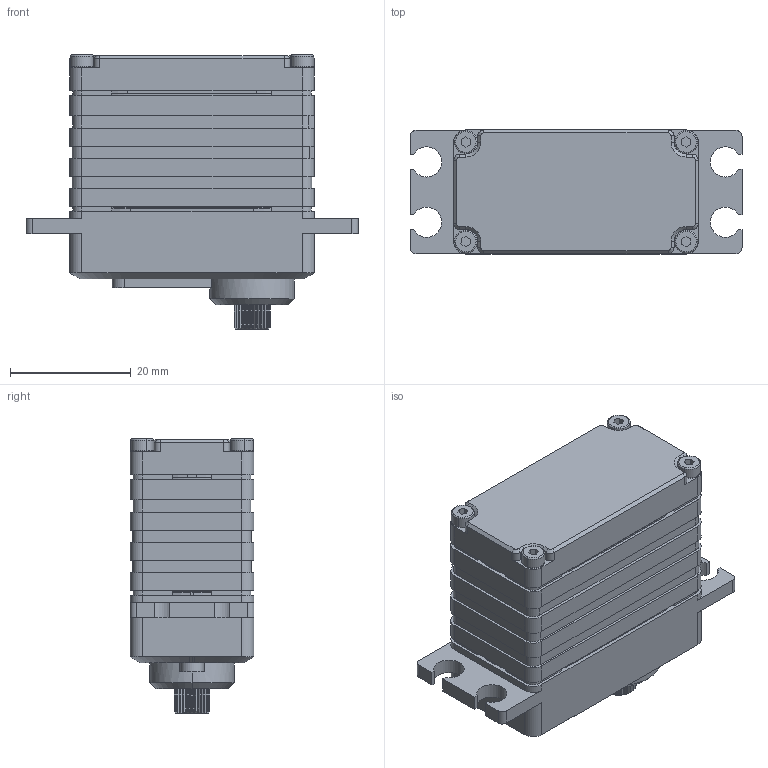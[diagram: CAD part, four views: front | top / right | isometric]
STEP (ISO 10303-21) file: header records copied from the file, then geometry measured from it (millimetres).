
FILE_DESCRIPTION (( 'STEP AP214' ), '1' );
FILE_NAME ('CM5018W_DM_20230718.STEP', '2023-11-01T08:25:40', ( '' ), ( '' ), 'SwSTEP 2.0', 'SolidWorks 2016', '' );
FILE_SCHEMA (( 'AUTOMOTIVE_DESIGN' ));
Length unit declared in the file: millimetre
Products named in the file (1): CM5018W_DM_20230718
Bounding box: 55 x 20.5 x 45.4 mm (x, y, z)
Surface area: 7891.4 mm2 (no closed solid volume)
Topology: 0 solids, 8 shells, 461 faces, 1353 edges, 899 vertices
Faces by surface type: plane 230, cylinder 164, cone 51, torus 16
Entity records: 20474 total; most frequent: CARTESIAN_POINT 2882, DIRECTION 2691, ORIENTED_EDGE 2530, EDGE_CURVE 1353, AXIS2_PLACEMENT_3D 932, VERTEX_POINT 899, LINE 827, VECTOR 827
